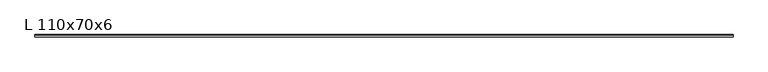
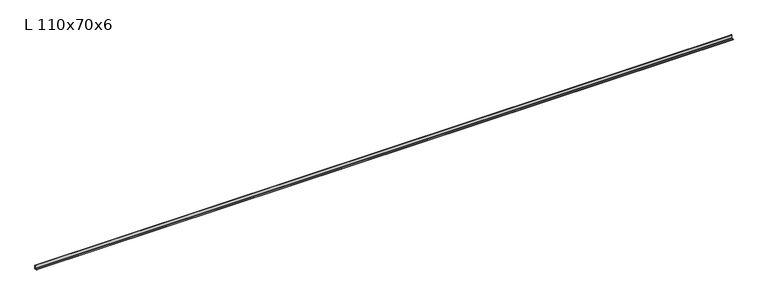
"""IFC4 building model written with IfcOpenShell, lengths in millimetres: beam geometry, Уголок (ГОСТ 8510-86) Балки : L 110x70x6."""

from ifc_helpers import new_model, si_unit, point, frame, frame_2d, origin, place, context, project, spatial, polyline, circle_curve, trimmed, segment, composite_curve, outline, extrude, source, transform, mapped, element, save


def l_110x70x6_3306c930(model_context):
    return source(origin(), model_context, "Body", "SweptSolid", [
        extrude(outline(composite_curve([segment(polyline([(15.8, -35.5), (-54.2, -35.5), (-54.2, -32.3)]), True, "CONTINUOUS"), segment(trimmed(circle_curve(frame_2d((-50.9, -32.3)), 3.3), [point((-54.2, -32.3))], [point((-50.9, -29.0))], False, "CARTESIAN"), True, "CONTINUOUS"), segment(polyline([(-50.9, -29.0), (-0.7, -29.0)]), True, "CONTINUOUS"), segment(trimmed(circle_curve(frame_2d((-0.7, -19.0)), 10.0), [point((-0.7, -29.0))], [point((9.3, -19.0))], True, "CARTESIAN"), True, "CONTINUOUS"), segment(polyline([(9.3, -19.0), (9.3, 71.2)]), True, "CONTINUOUS"), segment(trimmed(circle_curve(frame_2d((12.6, 71.2)), 3.3), [point((9.3, 71.2))], [point((12.6, 74.5))], False, "CARTESIAN"), True, "CONTINUOUS"), segment(polyline([(12.6, 74.5), (15.8, 74.5), (15.8, -35.5)]), True, "CONTINUOUS")], self_intersect=False)), frame((-10465.0, 0.0, 0.0), z_axis=(1.0, 0.0, 0.0), x_axis=(0.0, 1.0, 0.0)), (0.0, 0.0, 1.0), 20929.0),
    ])


if __name__ == "__main__":
    model = new_model("IFC4")
    model_context = context("Model", 3, world=origin())
    ifc_project = project(units=[si_unit("LENGTHUNIT", "METRE", prefix="MILLI")], contexts=[model_context])
    site = spatial("IfcSite", under=ifc_project)
    building = spatial("IfcBuilding", under=site)
    placement = place(None, origin())
    l_110x70x6_shape = l_110x70x6_3306c930(model_context)
    element("IfcBeam", 1, ObjectType="Уголок (ГОСТ 8510-86) Балки : L 110x70x6", at=placement, inside=building, context=model_context, shape_type="MappedRepresentation", body=[
        mapped(l_110x70x6_shape, transform((0.0, 0.0, 0.0), x_axis=(1.0, 0.0, 0.0), y_axis=(0.0, 1.0, 0.0), z_axis=(0.0, 0.0, 1.0))),
    ])
    save(model, "model.ifc")
